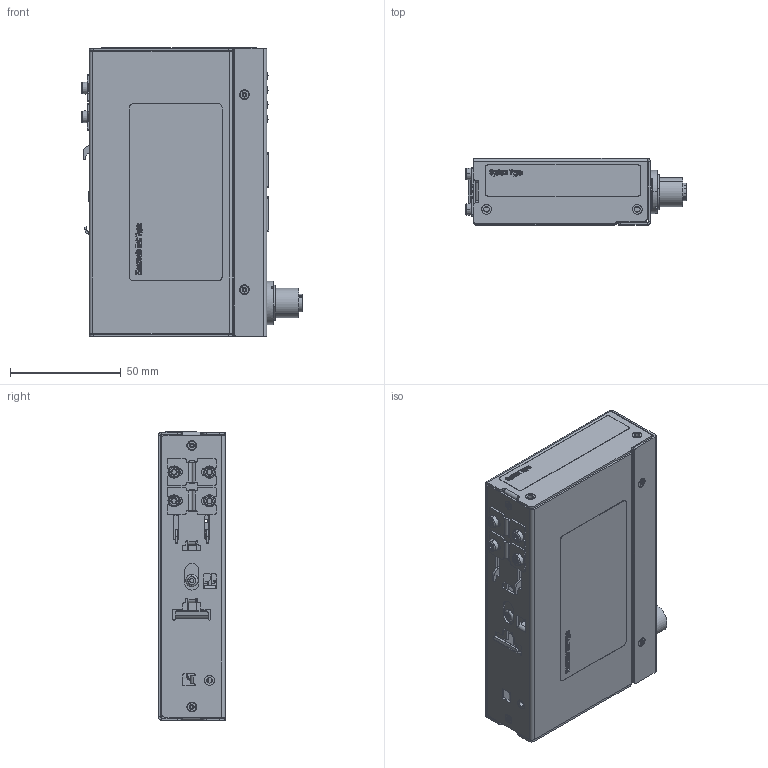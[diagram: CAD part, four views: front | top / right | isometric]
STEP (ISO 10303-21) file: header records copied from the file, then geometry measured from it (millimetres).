
FILE_DESCRIPTION((''),'2;1');
FILE_NAME('D000448223','2020-03-13T08:19:41',('scheu-1'),(''),'CREO PARAMETRIC BY PTC INC, 2018260','CREO PARAMETRIC BY PTC INC, 2018260','');
FILE_SCHEMA(('CONFIG_CONTROL_DESIGN'));
Products named in the file (1): D000448223
Bounding box: 99.5 x 30.2 x 130.2 mm (x, y, z)
Volume: 61072.9 mm3; surface area: 102030.4 mm2
Topology: 1 solids, 13 shells, 4634 faces, 13045 edges, 8435 vertices
Faces by surface type: plane 2730, cylinder 1297, extrusion 245, bspline 150, cone 102, torus 64, sphere 46
Entity records: 172655 total; most frequent: CARTESIAN_POINT 52656, ORIENTED_EDGE 25998, DIRECTION 23460, EDGE_CURVE 12999, VECTOR 9224, LINE 8979, VERTEX_POINT 8436, AXIS2_PLACEMENT_3D 7118
